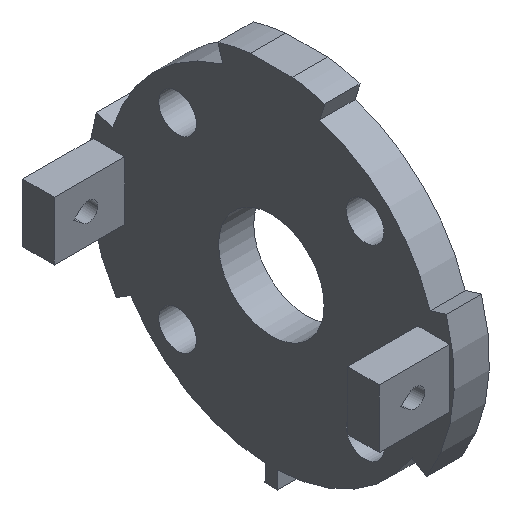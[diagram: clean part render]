
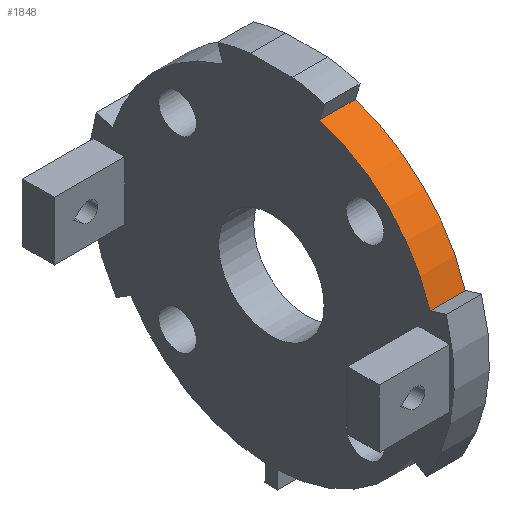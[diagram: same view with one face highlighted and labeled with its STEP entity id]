
A CAD part, isometric view. The second image highlights one B-rep face of the part: STEP entity #1848.
In plain terms, the highlighted cylindrical face has radius 14.15 mm (diameter 28.3 mm), a partial arc.
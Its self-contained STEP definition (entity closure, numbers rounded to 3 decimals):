
#71 = PLANE('',#72);
#72 = AXIS2_PLACEMENT_3D('',#73,#74,#75);
#73 = CARTESIAN_POINT('',(445.6,0.,0.));
#74 = DIRECTION('',(1.,0.,0.));
#75 = DIRECTION('',(-0.,0.,1.));
#124 = PLANE('',#125);
#125 = AXIS2_PLACEMENT_3D('',#126,#127,#128);
#126 = CARTESIAN_POINT('',(442.6,0.,0.));
#127 = DIRECTION('',(1.,0.,0.));
#128 = DIRECTION('',(-0.,0.,1.));
#341 = VERTEX_POINT('',#342);
#342 = CARTESIAN_POINT('',(442.6,-4.137,13.532));
#355 = PLANE('',#356);
#356 = AXIS2_PLACEMENT_3D('',#357,#358,#359);
#357 = CARTESIAN_POINT('',(441.6,0.,0.));
#358 = DIRECTION('',(0.,-0.956,-0.292));
#359 = DIRECTION('',(0.,-0.292,0.956));
#366 = EDGE_CURVE('',#341,#367,#369,.T.);
#367 = VERTEX_POINT('',#368);
#368 = CARTESIAN_POINT('',(442.6,-13.532,4.137));
#369 = SURFACE_CURVE('',#370,(#375,#382),.PCURVE_S1.);
#370 = CIRCLE('',#371,14.15);
#371 = AXIS2_PLACEMENT_3D('',#372,#373,#374);
#372 = CARTESIAN_POINT('',(442.6,0.,0.));
#373 = DIRECTION('',(1.,0.,0.));
#374 = DIRECTION('',(-0.,0.,1.));
#375 = PCURVE('',#124,#376);
#376 = DEFINITIONAL_REPRESENTATION('',(#377),#381);
#377 = CIRCLE('',#378,14.15);
#378 = AXIS2_PLACEMENT_2D('',#379,#380);
#379 = CARTESIAN_POINT('',(0.,0.));
#380 = DIRECTION('',(1.,0.));
#381 = ( GEOMETRIC_REPRESENTATION_CONTEXT(2) 
PARAMETRIC_REPRESENTATION_CONTEXT() REPRESENTATION_CONTEXT('2D SPACE',''
  ) );
#382 = PCURVE('',#383,#388);
#383 = CYLINDRICAL_SURFACE('',#384,14.15);
#384 = AXIS2_PLACEMENT_3D('',#385,#386,#387);
#385 = CARTESIAN_POINT('',(440.6,0.,0.));
#386 = DIRECTION('',(1.,0.,0.));
#387 = DIRECTION('',(-0.,0.,1.));
#388 = DEFINITIONAL_REPRESENTATION('',(#389),#393);
#389 = LINE('',#390,#391);
#390 = CARTESIAN_POINT('',(0.,2.));
#391 = VECTOR('',#392,1.);
#392 = DIRECTION('',(1.,0.));
#393 = ( GEOMETRIC_REPRESENTATION_CONTEXT(2) 
PARAMETRIC_REPRESENTATION_CONTEXT() REPRESENTATION_CONTEXT('2D SPACE',''
  ) );
#410 = PLANE('',#411);
#411 = AXIS2_PLACEMENT_3D('',#412,#413,#414);
#412 = CARTESIAN_POINT('',(441.6,-28.689,8.771));
#413 = DIRECTION('',(-0.,0.292,0.956));
#414 = DIRECTION('',(0.,0.956,-0.292));
#1151 = VERTEX_POINT('',#1152);
#1152 = CARTESIAN_POINT('',(445.6,-4.137,13.532));
#1171 = EDGE_CURVE('',#1151,#1172,#1174,.T.);
#1172 = VERTEX_POINT('',#1173);
#1173 = CARTESIAN_POINT('',(445.6,-13.532,4.137));
#1174 = SURFACE_CURVE('',#1175,(#1180,#1187),.PCURVE_S1.);
#1175 = CIRCLE('',#1176,14.15);
#1176 = AXIS2_PLACEMENT_3D('',#1177,#1178,#1179);
#1177 = CARTESIAN_POINT('',(445.6,0.,0.));
#1178 = DIRECTION('',(1.,0.,0.));
#1179 = DIRECTION('',(-0.,0.,1.));
#1180 = PCURVE('',#71,#1181);
#1181 = DEFINITIONAL_REPRESENTATION('',(#1182),#1186);
#1182 = CIRCLE('',#1183,14.15);
#1183 = AXIS2_PLACEMENT_2D('',#1184,#1185);
#1184 = CARTESIAN_POINT('',(0.,0.));
#1185 = DIRECTION('',(1.,0.));
#1186 = ( GEOMETRIC_REPRESENTATION_CONTEXT(2) 
PARAMETRIC_REPRESENTATION_CONTEXT() REPRESENTATION_CONTEXT('2D SPACE',''
  ) );
#1187 = PCURVE('',#383,#1188);
#1188 = DEFINITIONAL_REPRESENTATION('',(#1189),#1193);
#1189 = LINE('',#1190,#1191);
#1190 = CARTESIAN_POINT('',(0.,5.));
#1191 = VECTOR('',#1192,1.);
#1192 = DIRECTION('',(1.,0.));
#1193 = ( GEOMETRIC_REPRESENTATION_CONTEXT(2) 
PARAMETRIC_REPRESENTATION_CONTEXT() REPRESENTATION_CONTEXT('2D SPACE',''
  ) );
#1803 = EDGE_CURVE('',#341,#1151,#1804,.T.);
#1804 = SURFACE_CURVE('',#1805,(#1809,#1815),.PCURVE_S1.);
#1805 = LINE('',#1806,#1807);
#1806 = CARTESIAN_POINT('',(440.6,-4.137,13.532));
#1807 = VECTOR('',#1808,1.);
#1808 = DIRECTION('',(1.,0.,0.));
#1809 = PCURVE('',#355,#1810);
#1810 = DEFINITIONAL_REPRESENTATION('',(#1811),#1814);
#1811 = B_SPLINE_CURVE_WITH_KNOTS('',1,(#1812,#1813),.UNSPECIFIED.,.F.,
  .F.,(2,2),(0.5,6.5),.PIECEWISE_BEZIER_KNOTS.);
#1812 = CARTESIAN_POINT('',(14.15,0.5));
#1813 = CARTESIAN_POINT('',(14.15,-5.5));
#1814 = ( GEOMETRIC_REPRESENTATION_CONTEXT(2) 
PARAMETRIC_REPRESENTATION_CONTEXT() REPRESENTATION_CONTEXT('2D SPACE',''
  ) );
#1815 = PCURVE('',#383,#1816);
#1816 = DEFINITIONAL_REPRESENTATION('',(#1817),#1820);
#1817 = B_SPLINE_CURVE_WITH_KNOTS('',1,(#1818,#1819),.UNSPECIFIED.,.F.,
  .F.,(2,2),(0.5,6.5),.PIECEWISE_BEZIER_KNOTS.);
#1818 = CARTESIAN_POINT('',(0.297,0.5));
#1819 = CARTESIAN_POINT('',(0.297,6.5));
#1820 = ( GEOMETRIC_REPRESENTATION_CONTEXT(2) 
PARAMETRIC_REPRESENTATION_CONTEXT() REPRESENTATION_CONTEXT('2D SPACE',''
  ) );
#1848 = ADVANCED_FACE('',(#1849),#383,.T.);
#1849 = FACE_BOUND('',#1850,.T.);
#1850 = EDGE_LOOP('',(#1851,#1852,#1853,#1872));
#1851 = ORIENTED_EDGE('',*,*,#1803,.F.);
#1852 = ORIENTED_EDGE('',*,*,#366,.T.);
#1853 = ORIENTED_EDGE('',*,*,#1854,.T.);
#1854 = EDGE_CURVE('',#367,#1172,#1855,.T.);
#1855 = SURFACE_CURVE('',#1856,(#1860,#1866),.PCURVE_S1.);
#1856 = LINE('',#1857,#1858);
#1857 = CARTESIAN_POINT('',(440.6,-13.532,4.137));
#1858 = VECTOR('',#1859,1.);
#1859 = DIRECTION('',(1.,0.,0.));
#1860 = PCURVE('',#383,#1861);
#1861 = DEFINITIONAL_REPRESENTATION('',(#1862),#1865);
#1862 = B_SPLINE_CURVE_WITH_KNOTS('',1,(#1863,#1864),.UNSPECIFIED.,.F.,
  .F.,(2,2),(0.5,6.5),.PIECEWISE_BEZIER_KNOTS.);
#1863 = CARTESIAN_POINT('',(1.274,0.5));
#1864 = CARTESIAN_POINT('',(1.274,6.5));
#1865 = ( GEOMETRIC_REPRESENTATION_CONTEXT(2) 
PARAMETRIC_REPRESENTATION_CONTEXT() REPRESENTATION_CONTEXT('2D SPACE',''
  ) );
#1866 = PCURVE('',#410,#1867);
#1867 = DEFINITIONAL_REPRESENTATION('',(#1868),#1871);
#1868 = B_SPLINE_CURVE_WITH_KNOTS('',1,(#1869,#1870),.UNSPECIFIED.,.F.,
  .F.,(2,2),(0.5,6.5),.PIECEWISE_BEZIER_KNOTS.);
#1869 = CARTESIAN_POINT('',(15.85,0.5));
#1870 = CARTESIAN_POINT('',(15.85,-5.5));
#1871 = ( GEOMETRIC_REPRESENTATION_CONTEXT(2) 
PARAMETRIC_REPRESENTATION_CONTEXT() REPRESENTATION_CONTEXT('2D SPACE',''
  ) );
#1872 = ORIENTED_EDGE('',*,*,#1171,.F.);
